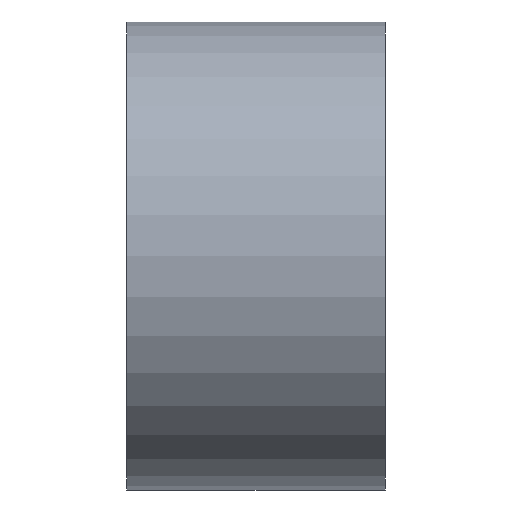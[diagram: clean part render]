
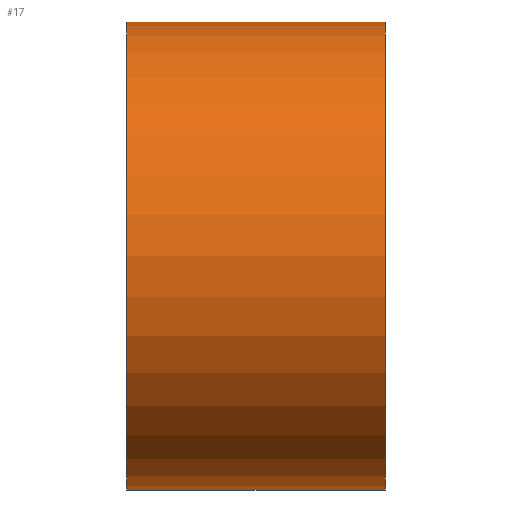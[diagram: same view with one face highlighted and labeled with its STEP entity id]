
A CAD part, front view. The second image highlights one B-rep face of the part: STEP entity #17.
In plain terms, the highlighted cylindrical face has radius 38 mm (diameter 76 mm), a full revolution.
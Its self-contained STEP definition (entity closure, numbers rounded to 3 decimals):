
#17 = ADVANCED_FACE('',(#18),#31,.T.);
#18 = FACE_BOUND('',#19,.T.);
#19 = EDGE_LOOP('',(#20,#54,#77,#104));
#20 = ORIENTED_EDGE('',*,*,#21,.F.);
#21 = EDGE_CURVE('',#22,#22,#24,.T.);
#22 = VERTEX_POINT('',#23);
#23 = CARTESIAN_POINT('',(294.,0.,-38.));
#24 = SURFACE_CURVE('',#25,(#30,#42),.PCURVE_S1.);
#25 = CIRCLE('',#26,38.);
#26 = AXIS2_PLACEMENT_3D('',#27,#28,#29);
#27 = CARTESIAN_POINT('',(294.,0.,0.));
#28 = DIRECTION('',(1.,-0.,0.));
#29 = DIRECTION('',(0.,0.,-1.));
#30 = PCURVE('',#31,#36);
#31 = CYLINDRICAL_SURFACE('',#32,38.);
#32 = AXIS2_PLACEMENT_3D('',#33,#34,#35);
#33 = CARTESIAN_POINT('',(252.,0.,0.));
#34 = DIRECTION('',(1.,0.,0.));
#35 = DIRECTION('',(0.,0.,-1.));
#36 = DEFINITIONAL_REPRESENTATION('',(#37),#41);
#37 = LINE('',#38,#39);
#38 = CARTESIAN_POINT('',(0.,42.));
#39 = VECTOR('',#40,1.);
#40 = DIRECTION('',(1.,0.));
#41 = ( GEOMETRIC_REPRESENTATION_CONTEXT(2) 
PARAMETRIC_REPRESENTATION_CONTEXT() REPRESENTATION_CONTEXT('2D SPACE',''
  ) );
#42 = PCURVE('',#43,#48);
#43 = PLANE('',#44);
#44 = AXIS2_PLACEMENT_3D('',#45,#46,#47);
#45 = CARTESIAN_POINT('',(294.,0.,0.));
#46 = DIRECTION('',(1.,0.,0.));
#47 = DIRECTION('',(0.,0.,-1.));
#48 = DEFINITIONAL_REPRESENTATION('',(#49),#53);
#49 = CIRCLE('',#50,38.);
#50 = AXIS2_PLACEMENT_2D('',#51,#52);
#51 = CARTESIAN_POINT('',(0.,0.));
#52 = DIRECTION('',(1.,0.));
#53 = ( GEOMETRIC_REPRESENTATION_CONTEXT(2) 
PARAMETRIC_REPRESENTATION_CONTEXT() REPRESENTATION_CONTEXT('2D SPACE',''
  ) );
#54 = ORIENTED_EDGE('',*,*,#55,.F.);
#55 = EDGE_CURVE('',#56,#22,#58,.T.);
#56 = VERTEX_POINT('',#57);
#57 = CARTESIAN_POINT('',(252.,0.,-38.));
#58 = SEAM_CURVE('',#59,(#63,#70),.PCURVE_S1.);
#59 = LINE('',#60,#61);
#60 = CARTESIAN_POINT('',(252.,0.,-38.));
#61 = VECTOR('',#62,1.);
#62 = DIRECTION('',(1.,0.,0.));
#63 = PCURVE('',#31,#64);
#64 = DEFINITIONAL_REPRESENTATION('',(#65),#69);
#65 = LINE('',#66,#67);
#66 = CARTESIAN_POINT('',(6.283,-0.));
#67 = VECTOR('',#68,1.);
#68 = DIRECTION('',(0.,1.));
#69 = ( GEOMETRIC_REPRESENTATION_CONTEXT(2) 
PARAMETRIC_REPRESENTATION_CONTEXT() REPRESENTATION_CONTEXT('2D SPACE',''
  ) );
#70 = PCURVE('',#31,#71);
#71 = DEFINITIONAL_REPRESENTATION('',(#72),#76);
#72 = LINE('',#73,#74);
#73 = CARTESIAN_POINT('',(0.,-0.));
#74 = VECTOR('',#75,1.);
#75 = DIRECTION('',(0.,1.));
#76 = ( GEOMETRIC_REPRESENTATION_CONTEXT(2) 
PARAMETRIC_REPRESENTATION_CONTEXT() REPRESENTATION_CONTEXT('2D SPACE',''
  ) );
#77 = ORIENTED_EDGE('',*,*,#78,.T.);
#78 = EDGE_CURVE('',#56,#56,#79,.T.);
#79 = SURFACE_CURVE('',#80,(#85,#92),.PCURVE_S1.);
#80 = CIRCLE('',#81,38.);
#81 = AXIS2_PLACEMENT_3D('',#82,#83,#84);
#82 = CARTESIAN_POINT('',(252.,0.,0.));
#83 = DIRECTION('',(1.,-0.,0.));
#84 = DIRECTION('',(0.,0.,-1.));
#85 = PCURVE('',#31,#86);
#86 = DEFINITIONAL_REPRESENTATION('',(#87),#91);
#87 = LINE('',#88,#89);
#88 = CARTESIAN_POINT('',(0.,0.));
#89 = VECTOR('',#90,1.);
#90 = DIRECTION('',(1.,0.));
#91 = ( GEOMETRIC_REPRESENTATION_CONTEXT(2) 
PARAMETRIC_REPRESENTATION_CONTEXT() REPRESENTATION_CONTEXT('2D SPACE',''
  ) );
#92 = PCURVE('',#93,#98);
#93 = PLANE('',#94);
#94 = AXIS2_PLACEMENT_3D('',#95,#96,#97);
#95 = CARTESIAN_POINT('',(252.,0.,0.));
#96 = DIRECTION('',(1.,0.,0.));
#97 = DIRECTION('',(0.,0.,-1.));
#98 = DEFINITIONAL_REPRESENTATION('',(#99),#103);
#99 = CIRCLE('',#100,38.);
#100 = AXIS2_PLACEMENT_2D('',#101,#102);
#101 = CARTESIAN_POINT('',(0.,0.));
#102 = DIRECTION('',(1.,0.));
#103 = ( GEOMETRIC_REPRESENTATION_CONTEXT(2) 
PARAMETRIC_REPRESENTATION_CONTEXT() REPRESENTATION_CONTEXT('2D SPACE',''
  ) );
#104 = ORIENTED_EDGE('',*,*,#55,.T.);
